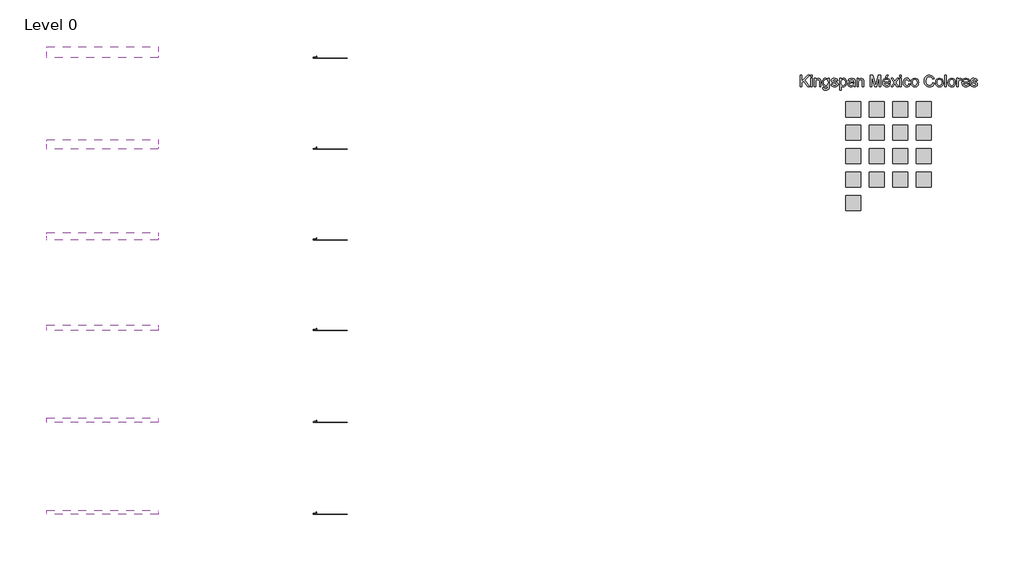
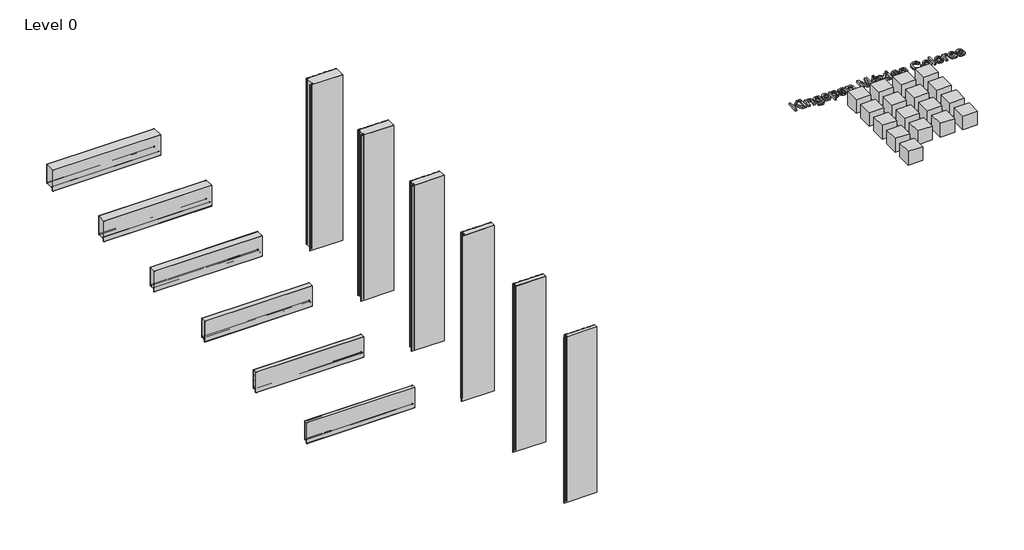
# One storey, incomplete: 18 proxies, 12 plates.
"""IFC4 building model written with IfcOpenShell, lengths in millimetres."""

from ifc_helpers import new_model, si_unit, origin, place, context, project, spatial, transform, mapped, element, save
from components import generic_models_b1469a46, ks_colour_sample_ks_colour_sample_0243efec, hz_050mm_dce8ea4b, hz_060mm_f28033a6, hz_075mm_108744e1, hz_100mm_8f397e4b, hz_125mm_eea721eb, hz_150mm_f9b8a2df, vt_050mm_d62c415d, vt_060mm_0d96d6be, vt_075mm_9d33335d, vt_100mm_dac5878b, vt_125mm_141aa0a6, vt_150mm_fdf00c52

model = new_model("IFC4")

# Units and contexts
model_context = context("Model", 3, world=origin())
ifc_project = project(units=[si_unit("LENGTHUNIT", "METRE", prefix="MILLI")], contexts=[model_context])

# Site, building, storey
site = spatial("IfcSite", under=ifc_project)
building = spatial("IfcBuilding", under=site)
storey = spatial("IfcBuildingStorey", under=building, Name="Level 0", Elevation=0.0)

# Proxies
placement = place(None, origin())
generic_models_shape = generic_models_b1469a46(model_context)
element("IfcBuildingElementProxy", 1, Name="KIP-MX_ColourRange_Spanish : KIP-MX_ColourRange_English", ObjectType="KIP-MX_ColourRange_Spanish : KIP-MX_ColourRange_English", at=placement, inside=storey, context=model_context, shape_type="MappedRepresentation", body=[
    mapped(generic_models_shape, transform((1966.0629502, 11802.7493823, 0.0), x_axis=(1.0, 0.0, 0.0), y_axis=(0.0, 1.0, 0.0), z_axis=(0.0, 0.0, 1.0))),
])
ks_colour_sample_ks_colour_sample_shape = ks_colour_sample_ks_colour_sample_0243efec(model_context)
element("IfcBuildingElementProxy", 2, Name="KS_Colour Sample : KS_Colour Sample", ObjectType="KS_Colour Sample : KS_Colour Sample", at=placement, inside=storey, context=model_context, shape_type="MappedRepresentation", body=[
    mapped(ks_colour_sample_ks_colour_sample_shape, transform((1501.0629502, 13781.2299273, 0.0), x_axis=(1.0, 0.0, 0.0), y_axis=(0.0, 1.0, 0.0), z_axis=(0.0, 0.0, 1.0))),
])
element("IfcBuildingElementProxy", 3, Name="KS_Colour Sample : KS_Colour Sample", ObjectType="KS_Colour Sample : KS_Colour Sample", at=placement, inside=storey, context=model_context, shape_type="MappedRepresentation", body=[
    mapped(ks_colour_sample_ks_colour_sample_shape, transform((1811.0629502, 13781.2299273, 0.0), x_axis=(1.0, 0.0, 0.0), y_axis=(0.0, 1.0, 0.0), z_axis=(0.0, 0.0, 1.0))),
])
element("IfcBuildingElementProxy", 4, Name="KS_Colour Sample : KS_Colour Sample", ObjectType="KS_Colour Sample : KS_Colour Sample", at=placement, inside=storey, context=model_context, shape_type="MappedRepresentation", body=[
    mapped(ks_colour_sample_ks_colour_sample_shape, transform((2121.0629502, 13781.2299273, 0.0), x_axis=(1.0, 0.0, 0.0), y_axis=(0.0, 1.0, 0.0), z_axis=(0.0, 0.0, 1.0))),
])
element("IfcBuildingElementProxy", 5, Name="KS_Colour Sample : KS_Colour Sample", ObjectType="KS_Colour Sample : KS_Colour Sample", at=placement, inside=storey, context=model_context, shape_type="MappedRepresentation", body=[
    mapped(ks_colour_sample_ks_colour_sample_shape, transform((2431.0629502, 13781.2299273, 0.0), x_axis=(1.0, 0.0, 0.0), y_axis=(0.0, 1.0, 0.0), z_axis=(0.0, 0.0, 1.0))),
])
element("IfcBuildingElementProxy", 6, Name="KS_Colour Sample : KS_Colour Sample", ObjectType="KS_Colour Sample : KS_Colour Sample", at=placement, inside=storey, context=model_context, shape_type="MappedRepresentation", body=[
    mapped(ks_colour_sample_ks_colour_sample_shape, transform((1501.0629502, 13471.2299273, 0.0), x_axis=(1.0, 0.0, 0.0), y_axis=(0.0, 1.0, 0.0), z_axis=(0.0, 0.0, 1.0))),
])
element("IfcBuildingElementProxy", 7, Name="KS_Colour Sample : KS_Colour Sample", ObjectType="KS_Colour Sample : KS_Colour Sample", at=placement, inside=storey, context=model_context, shape_type="MappedRepresentation", body=[
    mapped(ks_colour_sample_ks_colour_sample_shape, transform((1811.0629502, 13471.2299273, 0.0), x_axis=(1.0, 0.0, 0.0), y_axis=(0.0, 1.0, 0.0), z_axis=(0.0, 0.0, 1.0))),
])
element("IfcBuildingElementProxy", 8, Name="KS_Colour Sample : KS_Colour Sample", ObjectType="KS_Colour Sample : KS_Colour Sample", at=placement, inside=storey, context=model_context, shape_type="MappedRepresentation", body=[
    mapped(ks_colour_sample_ks_colour_sample_shape, transform((2121.0629502, 13471.2299273, 0.0), x_axis=(1.0, 0.0, 0.0), y_axis=(0.0, 1.0, 0.0), z_axis=(0.0, 0.0, 1.0))),
])
element("IfcBuildingElementProxy", 9, Name="KS_Colour Sample : KS_Colour Sample", ObjectType="KS_Colour Sample : KS_Colour Sample", at=placement, inside=storey, context=model_context, shape_type="MappedRepresentation", body=[
    mapped(ks_colour_sample_ks_colour_sample_shape, transform((2431.0629502, 13471.2299273, 0.0), x_axis=(1.0, 0.0, 0.0), y_axis=(0.0, 1.0, 0.0), z_axis=(0.0, 0.0, 1.0))),
])
element("IfcBuildingElementProxy", 10, Name="KS_Colour Sample : KS_Colour Sample", ObjectType="KS_Colour Sample : KS_Colour Sample", at=placement, inside=storey, context=model_context, shape_type="MappedRepresentation", body=[
    mapped(ks_colour_sample_ks_colour_sample_shape, transform((1501.0629502, 13161.2299273, 0.0), x_axis=(1.0, 0.0, 0.0), y_axis=(0.0, 1.0, 0.0), z_axis=(0.0, 0.0, 1.0))),
])
element("IfcBuildingElementProxy", 11, Name="KS_Colour Sample : KS_Colour Sample", ObjectType="KS_Colour Sample : KS_Colour Sample", at=placement, inside=storey, context=model_context, shape_type="MappedRepresentation", body=[
    mapped(ks_colour_sample_ks_colour_sample_shape, transform((1811.0629502, 13161.2299273, 0.0), x_axis=(1.0, 0.0, 0.0), y_axis=(0.0, 1.0, 0.0), z_axis=(0.0, 0.0, 1.0))),
])
element("IfcBuildingElementProxy", 12, Name="KS_Colour Sample : KS_Colour Sample", ObjectType="KS_Colour Sample : KS_Colour Sample", at=placement, inside=storey, context=model_context, shape_type="MappedRepresentation", body=[
    mapped(ks_colour_sample_ks_colour_sample_shape, transform((2121.0629502, 13161.2299273, 0.0), x_axis=(1.0, 0.0, 0.0), y_axis=(0.0, 1.0, 0.0), z_axis=(0.0, 0.0, 1.0))),
])
element("IfcBuildingElementProxy", 13, Name="KS_Colour Sample : KS_Colour Sample", ObjectType="KS_Colour Sample : KS_Colour Sample", at=placement, inside=storey, context=model_context, shape_type="MappedRepresentation", body=[
    mapped(ks_colour_sample_ks_colour_sample_shape, transform((2431.0629502, 13161.2299273, 0.0), x_axis=(1.0, 0.0, 0.0), y_axis=(0.0, 1.0, 0.0), z_axis=(0.0, 0.0, 1.0))),
])
element("IfcBuildingElementProxy", 14, Name="KS_Colour Sample : KS_Colour Sample", ObjectType="KS_Colour Sample : KS_Colour Sample", at=placement, inside=storey, context=model_context, shape_type="MappedRepresentation", body=[
    mapped(ks_colour_sample_ks_colour_sample_shape, transform((1501.0629502, 12851.2299273, 0.0), x_axis=(1.0, 0.0, 0.0), y_axis=(0.0, 1.0, 0.0), z_axis=(0.0, 0.0, 1.0))),
])
element("IfcBuildingElementProxy", 15, Name="KS_Colour Sample : KS_Colour Sample", ObjectType="KS_Colour Sample : KS_Colour Sample", at=placement, inside=storey, context=model_context, shape_type="MappedRepresentation", body=[
    mapped(ks_colour_sample_ks_colour_sample_shape, transform((1811.0629502, 12851.2299273, 0.0), x_axis=(1.0, 0.0, 0.0), y_axis=(0.0, 1.0, 0.0), z_axis=(0.0, 0.0, 1.0))),
])
element("IfcBuildingElementProxy", 16, Name="KS_Colour Sample : KS_Colour Sample", ObjectType="KS_Colour Sample : KS_Colour Sample", at=placement, inside=storey, context=model_context, shape_type="MappedRepresentation", body=[
    mapped(ks_colour_sample_ks_colour_sample_shape, transform((2121.0629502, 12851.2299273, 0.0), x_axis=(1.0, 0.0, 0.0), y_axis=(0.0, 1.0, 0.0), z_axis=(0.0, 0.0, 1.0))),
])
element("IfcBuildingElementProxy", 17, Name="KS_Colour Sample : KS_Colour Sample", ObjectType="KS_Colour Sample : KS_Colour Sample", at=placement, inside=storey, context=model_context, shape_type="MappedRepresentation", body=[
    mapped(ks_colour_sample_ks_colour_sample_shape, transform((2431.0629502, 12851.2299273, 0.0), x_axis=(1.0, 0.0, 0.0), y_axis=(0.0, 1.0, 0.0), z_axis=(0.0, 0.0, 1.0))),
])
element("IfcBuildingElementProxy", 18, Name="KS_Colour Sample : KS_Colour Sample", ObjectType="KS_Colour Sample : KS_Colour Sample", at=placement, inside=storey, context=model_context, shape_type="MappedRepresentation", body=[
    mapped(ks_colour_sample_ks_colour_sample_shape, transform((1501.0629502, 12541.2299273, 0.0), x_axis=(1.0, 0.0, 0.0), y_axis=(0.0, 1.0, 0.0), z_axis=(0.0, 0.0, 1.0))),
])

# Plates
hz_050mm_shape = hz_050mm_dce8ea4b(model_context)
element("IfcPlate", 19, ObjectType="KIP-MEX-KSS-1067-R19-CP-Hz-OP_SL : Hz 050mm", at=placement, inside=storey, context=model_context, shape_type="MappedRepresentation", body=[
    mapped(hz_050mm_shape, transform((-8438.7250935, 8468.7418563, 2134.0), x_axis=(1.0, 0.0, 0.0), y_axis=(0.0, 1.0, 0.0), z_axis=(0.0, 0.0, 1.0))),
])
hz_060mm_shape = hz_060mm_f28033a6(model_context)
element("IfcPlate", 20, ObjectType="KIP-MEX-KSS-1067-R19-CP-Hz-OP_SL : Hz 060mm", at=placement, inside=storey, context=model_context, shape_type="MappedRepresentation", body=[
    mapped(hz_060mm_shape, transform((-8438.7250935, 9693.0962077, 2134.0), x_axis=(1.0, 0.0, 0.0), y_axis=(0.0, 1.0, 0.0), z_axis=(0.0, 0.0, 1.0))),
])
hz_075mm_shape = hz_075mm_108744e1(model_context)
element("IfcPlate", 21, ObjectType="KIP-MEX-KSS-1067-R19-CP-Hz-OP_SL : Hz 075mm", at=placement, inside=storey, context=model_context, shape_type="MappedRepresentation", body=[
    mapped(hz_075mm_shape, transform((-8438.7250935, 10927.2962077, 2134.0), x_axis=(1.0, 0.0, 0.0), y_axis=(0.0, 1.0, 0.0), z_axis=(0.0, 0.0, 1.0))),
])
hz_100mm_shape = hz_100mm_8f397e4b(model_context)
element("IfcPlate", 22, ObjectType="KIP-MEX-KSS-1067-R19-CP-Hz-OP_SL : Hz 100mm", at=placement, inside=storey, context=model_context, shape_type="MappedRepresentation", body=[
    mapped(hz_100mm_shape, transform((-8438.7250935, 12150.3733554, 2134.0), x_axis=(1.0, 0.0, 0.0), y_axis=(0.0, 1.0, 0.0), z_axis=(0.0, 0.0, 1.0))),
])
hz_125mm_shape = hz_125mm_eea721eb(model_context)
element("IfcPlate", 23, ObjectType="KIP-MEX-KSS-1067-R19-CP-Hz-OP_SL : Hz 125mm", at=placement, inside=storey, context=model_context, shape_type="MappedRepresentation", body=[
    mapped(hz_125mm_shape, transform((-8438.7250935, 13377.5488626, 2134.0), x_axis=(1.0, 0.0, 0.0), y_axis=(0.0, 1.0, 0.0), z_axis=(0.0, 0.0, 1.0))),
])
hz_150mm_shape = hz_150mm_f9b8a2df(model_context)
element("IfcPlate", 24, ObjectType="KIP-MEX-KSS-1067-R19-CP-Hz-OP_SL : Hz 150mm", at=placement, inside=storey, context=model_context, shape_type="MappedRepresentation", body=[
    mapped(hz_150mm_shape, transform((-8438.7250935, 14614.4207339, 2134.0), x_axis=(1.0, 0.0, 0.0), y_axis=(0.0, 1.0, 0.0), z_axis=(0.0, 0.0, 1.0))),
])
vt_050mm_shape = vt_050mm_d62c415d(model_context)
element("IfcPlate", 25, ObjectType="KIP-MEX-KSS-1067-R19-CP-Vt-OP_SL : Vt 050mm", at=placement, inside=storey, context=model_context, shape_type="MappedRepresentation", body=[
    mapped(vt_050mm_shape, transform((-5405.4413834, 8468.7418563, 0.0), x_axis=(1.0, 0.0, 0.0), y_axis=(0.0, 1.0, 0.0), z_axis=(0.0, 0.0, 1.0))),
])
vt_060mm_shape = vt_060mm_0d96d6be(model_context)
element("IfcPlate", 26, ObjectType="KIP-MEX-KSS-1067-R19-CP-Vt-OP_SL : Vt 060mm", at=placement, inside=storey, context=model_context, shape_type="MappedRepresentation", body=[
    mapped(vt_060mm_shape, transform((-5405.4413834, 9693.0962077, 0.0), x_axis=(1.0, 0.0, 0.0), y_axis=(0.0, 1.0, 0.0), z_axis=(0.0, 0.0, 1.0))),
])
vt_075mm_shape = vt_075mm_9d33335d(model_context)
element("IfcPlate", 27, ObjectType="KIP-MEX-KSS-1067-R19-CP-Vt-OP_SL : Vt 075mm", at=placement, inside=storey, context=model_context, shape_type="MappedRepresentation", body=[
    mapped(vt_075mm_shape, transform((-5405.4413834, 10927.2962077, 0.0), x_axis=(1.0, 0.0, 0.0), y_axis=(0.0, 1.0, 0.0), z_axis=(0.0, 0.0, 1.0))),
])
vt_100mm_shape = vt_100mm_dac5878b(model_context)
element("IfcPlate", 28, ObjectType="KIP-MEX-KSS-1067-R19-CP-Vt-OP_SL : Vt 100mm", at=placement, inside=storey, context=model_context, shape_type="MappedRepresentation", body=[
    mapped(vt_100mm_shape, transform((-5405.4413834, 12150.3733554, 0.0), x_axis=(1.0, 0.0, 0.0), y_axis=(0.0, 1.0, 0.0), z_axis=(0.0, 0.0, 1.0))),
])
vt_125mm_shape = vt_125mm_141aa0a6(model_context)
element("IfcPlate", 29, ObjectType="KIP-MEX-KSS-1067-R19-CP-Vt-OP_SL : Vt 125mm", at=placement, inside=storey, context=model_context, shape_type="MappedRepresentation", body=[
    mapped(vt_125mm_shape, transform((-5405.4413834, 13377.5488626, 0.0), x_axis=(1.0, 0.0, 0.0), y_axis=(0.0, 1.0, 0.0), z_axis=(0.0, 0.0, 1.0))),
])
vt_150mm_shape = vt_150mm_fdf00c52(model_context)
element("IfcPlate", 30, ObjectType="KIP-MEX-KSS-1067-R19-CP-Vt-OP_SL : Vt 150mm", at=placement, inside=storey, context=model_context, shape_type="MappedRepresentation", body=[
    mapped(vt_150mm_shape, transform((-5405.4413834, 14609.2486688, 0.0), x_axis=(1.0, 0.0, 0.0), y_axis=(0.0, 1.0, 0.0), z_axis=(0.0, 0.0, 1.0))),
])

save(model, "model.ifc")
